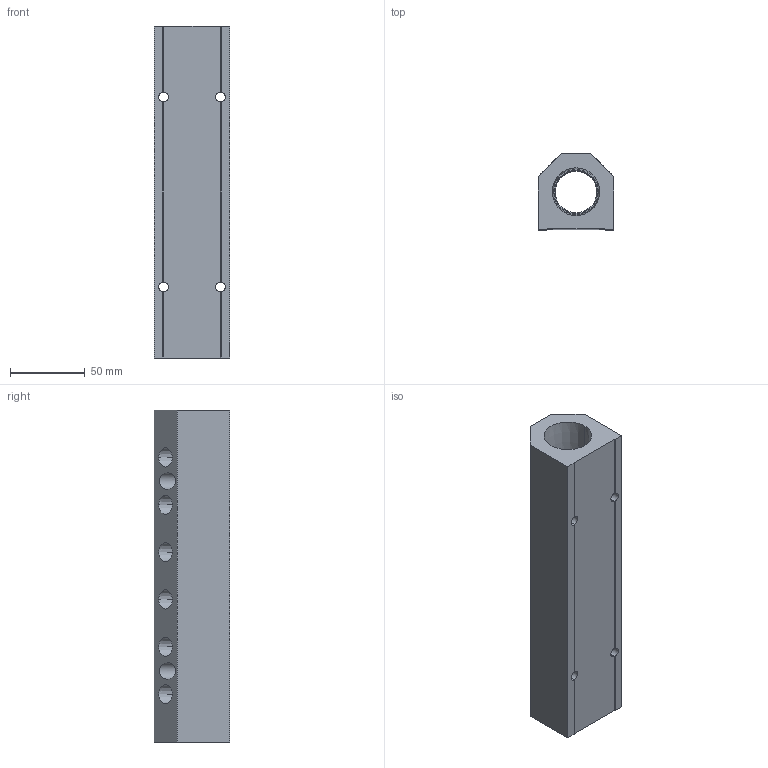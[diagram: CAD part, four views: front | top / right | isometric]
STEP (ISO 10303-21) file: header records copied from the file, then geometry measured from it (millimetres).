
FILE_DESCRIPTION (( 'STEP AP214' ), '1' );
FILE_NAME ('ALM6BD-N4N16-222B.STEP', '2023-11-02T06:37:25', ( '' ), ( '' ), 'SwSTEP 2.0', 'SolidWorks 2020', '' );
FILE_SCHEMA (( 'AUTOMOTIVE_DESIGN' ));
Length unit declared in the file: millimetre
Products named in the file (1): ALM6BD-N4N16-222B
Bounding box: 50.8 x 50.8 x 222 mm (x, y, z)
Volume: 347706.7 mm3; surface area: 70412.2 mm2
Topology: 1 solids, 1 shells, 327 faces, 857 edges, 566 vertices
Faces by surface type: plane 209, bspline 64, cone 32, cylinder 22
Entity records: 17966 total; most frequent: CARTESIAN_POINT 7309, ORIENTED_EDGE 1714, DIRECTION 1285, EDGE_CURVE 857, LINE 621, VECTOR 621, VERTEX_POINT 566, EDGE_LOOP 395
